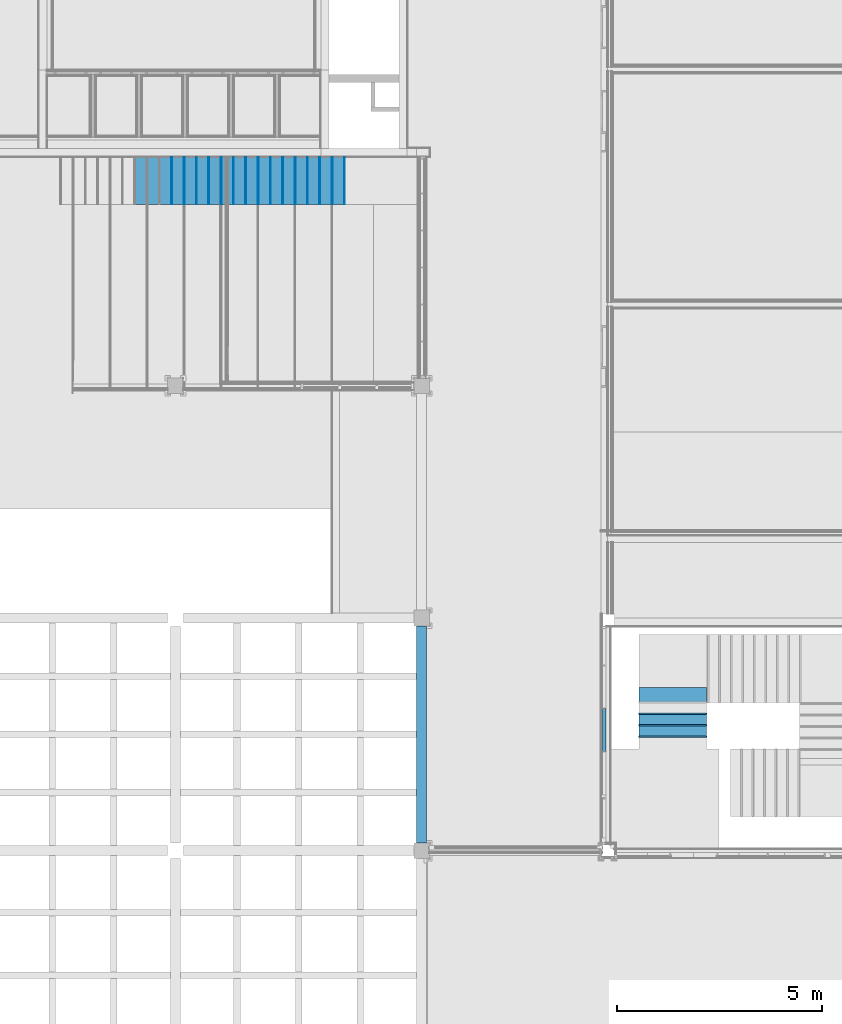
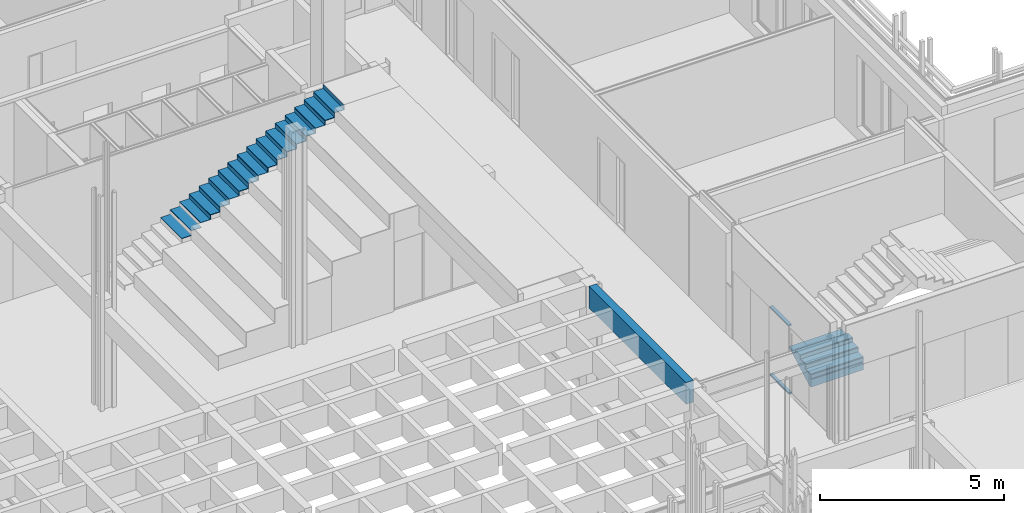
# One storey, part 39 of 139: 40 members, 1 beam, 3 elements without a shape of their own.
"""IFC2X3 building model written with IfcOpenShell, lengths in millimetres."""

from ifc_helpers import new_model, entity, si_unit, converted_unit, derived_unit, money_unit, direction, frame, origin_with_axes, place, context, subcontext, project, spatial, faceted_brep, material, type_object, element, aggregate, save


model = new_model("IFC2X3")

# Units and contexts
model_context = context("Model", 3, precision=0.01, world=origin_with_axes(), true_north=direction((0.0, 1.0)))
body_context = subcontext(model_context, "Body", "Model", "MODEL_VIEW")
ifc_project = project(units=[si_unit("LENGTHUNIT", "METRE", prefix="MILLI"), si_unit("AREAUNIT", "SQUARE_METRE"), si_unit("VOLUMEUNIT", "CUBIC_METRE"), converted_unit("PLANEANGLEUNIT", "DEGREE", entity("IfcPlaneAngleMeasure", 0.0174532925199), si_unit("PLANEANGLEUNIT", "RADIAN"), dimensions=[0, 0, 0, 0, 0, 0, 0]), money_unit("EUR"), converted_unit("TIMEUNIT", "Year", entity("IfcTimeMeasure", 31556926.0), si_unit("TIMEUNIT", "SECOND"), dimensions=[0, 0, 1, 0, 0, 0, 0]), si_unit("MASSUNIT", "GRAM", prefix="KILO"), si_unit("THERMODYNAMICTEMPERATUREUNIT", "DEGREE_CELSIUS"), si_unit("LUMINOUSINTENSITYUNIT", "LUMEN"), si_unit("ENERGYUNIT", "JOULE", prefix="MEGA"), derived_unit("THERMALCONDUCTANCEUNIT", [(si_unit("POWERUNIT", "WATT"), 1), (si_unit("LENGTHUNIT", "METRE"), -1), (si_unit("THERMODYNAMICTEMPERATUREUNIT", "KELVIN"), -1)]), derived_unit("SPECIFICHEATCAPACITYUNIT", [(si_unit("ENERGYUNIT", "JOULE"), 1), (si_unit("MASSUNIT", "GRAM", prefix="KILO"), -1), (si_unit("THERMODYNAMICTEMPERATUREUNIT", "KELVIN"), -1)]), derived_unit("MASSDENSITYUNIT", [(si_unit("MASSUNIT", "GRAM", prefix="KILO"), 1), (si_unit("VOLUMEUNIT", "CUBIC_METRE"), -1)])], contexts=[model_context])

# Site, building, storey
site_placement = place(None, origin_with_axes())
site = spatial("IfcSite", under=ifc_project, at=site_placement, Name="Kolde pst 67a", CompositionType="ELEMENT")
building_placement = place(site_placement, origin_with_axes())
building = spatial("IfcBuilding", under=site, at=building_placement, Name="Riigigümnaasium", CompositionType="ELEMENT")
storey_placement = place(building_placement, frame((0.0, 0.0, 4600.0), z_axis=(0.0, 0.0, 1.0), x_axis=(1.0, 0.0, 0.0)))
storey = spatial("IfcBuildingStorey", under=building, at=storey_placement, Name="2. korrus", CompositionType="ELEMENT", Elevation=4600.0)

# Stair, members
stair_1_placement = place(storey_placement, frame((55074.9941194, 31162.4614213, 0.0), z_axis=(0.0, 0.0, 1.0), x_axis=(1.0, 0.0, 0.0)))
stair_1 = element("IfcStair", 1, at=stair_1_placement, inside=storey, Name="TREPP", ShapeType="NOTDEFINED")
ifc_material_1 = material(Name="_KANDETARIND - raudbetoon C25/30 vastavalt EK osale")
member_type_1 = type_object("IfcMemberType", Name="IfcMember", PredefinedType="USERDEFINED")
member_1_placement = place(stair_1_placement, origin_with_axes())
member_1 = element("IfcMember", 2, at=member_1_placement, type_object=member_type_1, material=ifc_material_1, Name="TT KONSTRUKTSIOON - 015", ObjectType="Stair Structure", context=body_context, shape_type="Brep", body=[
    faceted_brep([(89.8061332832, 1215.0069978, 436.75), (89.8061226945, 1215.0069978, 343.0), (-1558.15879981, 1215.0069978, 343.0), (-1558.15879981, 1215.0069978, 436.75), (89.8065787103, 1222.51927635, 343.0), (89.7916185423, 967.006997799, 436.75), (89.7916185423, 967.006997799, 280.5), (89.7752314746, 687.006997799, 280.5), (89.7752314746, 687.006997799, 124.25), (89.7595041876, 418.296062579, 124.25), (89.7595041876, 418.296062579, -280.0), (89.7622589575, 465.364427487, -280.0), (89.7624330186, 468.338458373, -278.340384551), (89.7678955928, 561.672728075, -226.25652869), (89.7733581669, 655.006997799, -174.172672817), (89.7788267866, 748.340331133, -122.089339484), (89.784289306, 841.673664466, -70.0060061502), (89.7897500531, 935.006997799, -17.9226728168), (89.7952125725, 1028.34033113, 34.1606605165), (89.8006750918, 1121.67366447, 86.2439938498), (89.8061226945, 1215.0069978, 138.327327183), (89.8065787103, 1222.51927635, 142.519446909), (-1558.12262256, 1581.78042446, 343.0), (89.8061226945, 1581.78042446, 343.0), (-1558.15879981, 1215.0069978, 138.327327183), (-1558.16800127, 1121.67366447, 86.2439938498), (-1558.17720272, 1028.34033113, 34.1606605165), (-1558.18640417, 935.006997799, -17.9226728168), (-1558.19560562, 841.673664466, -70.0060061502), (-1558.20480707, 748.340331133, -122.089339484), (-1558.21400852, 655.006997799, -174.172672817), (-1558.22320997, 561.673664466, -226.25600615), (-1558.23241142, 468.340331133, -278.339339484), (-1558.2327048, 465.364427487, -280.0), (-1558.24161287, 375.006997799, -280.0), (-1558.24161287, 375.006997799, -32.0), (-1558.23845687, 407.006997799, -32.0), (-1558.23845687, 407.006997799, 124.25), (-1558.2108526, 687.006997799, 124.25), (-1558.2108526, 687.006997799, 280.5), (-1558.18324827, 967.006997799, 280.5), (-1558.18324827, 967.006997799, 436.75), (89.7717789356, 407.006997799, 124.25), (89.8065729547, 375.006997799, -32.0), (89.8065729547, 375.006997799, -280.0), (89.7717789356, 407.006997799, -32.0)], [[[0, 1, 2, 3]], [[4, 1, 0, 5, 6, 7, 8, 9, 10, 11, 12, 13, 14, 15, 16, 17, 18, 19, 20, 21]], [[22, 2, 1, 4, 23]], [[22, 24, 25, 26, 27, 28, 29, 30, 31, 32, 33, 34, 35, 36, 37, 38, 39, 40, 41, 3, 2]], [[5, 0, 3, 41]], [[5, 41, 40, 6]], [[40, 39, 7, 6]], [[7, 39, 38, 8]], [[37, 42, 9, 8, 38]], [[43, 44, 10, 9, 42, 45]], [[33, 11, 10, 44, 34]], [[12, 11, 33, 32]], [[32, 31, 13, 12]], [[31, 30, 14, 13]], [[30, 29, 15, 14]], [[29, 28, 16, 15]], [[28, 27, 17, 16]], [[27, 26, 18, 17]], [[26, 25, 19, 18]], [[21, 20, 19, 25, 24, 22, 23]], [[4, 21, 23]], [[35, 34, 44, 43]], [[43, 45, 36, 35]], [[42, 37, 36, 45]]]),
])
ifc_material_2 = material(Name="_VIIMISTLUSKIHT - viimistlus vastavalt SA osale")
member_type_2 = type_object("IfcMemberType", Name="IfcMember", PredefinedType="USERDEFINED")
member_2_placement = place(stair_1_placement, frame((-735.193427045, 375.006997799, 124.25), z_axis=(0.0, 0.0, 1.0), x_axis=(1.0, 0.0, 0.0)))
member_2 = element("IfcMember", 3, at=member_2_placement, type_object=member_type_2, material=ifc_material_2, Name="TV TÕUS - 110", ObjectType="Stair Riser", context=body_context, shape_type="Brep", body=[
    faceted_brep([(825.0, 0.0, 0.0), (824.965205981, 32.0, 0.0), (-823.045031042, 32.0, 0.0), (-823.048185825, 0.0, 0.0), (825.0, 0.0, -124.25), (824.965205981, 32.0, -124.25), (-823.045031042, 32.0, -124.25), (-823.048185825, 0.0, -124.25)], [[[0, 1, 2, 3]], [[0, 4, 5, 1]], [[1, 5, 6, 2]], [[3, 2, 6, 7]], [[4, 0, 3, 7]], [[5, 4, 7, 6]]]),
])
member_3_placement = place(stair_1_placement, frame((-735.193427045, 655.006997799, 280.5), z_axis=(0.0, 0.0, 1.0), x_axis=(1.0, 0.0, 0.0)))
member_3 = element("IfcMember", 4, at=member_3_placement, type_object=member_type_2, material=ifc_material_2, Name="TV TÕUS - 111", ObjectType="Stair Riser", context=body_context, shape_type="Brep", body=[
    faceted_brep([(824.966785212, 0.0, 0.0), (824.968658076, 32.0, 0.0), (-823.01742669, 32.0, 0.0), (-823.020581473, 0.0, 0.0), (824.966785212, 0.0, -124.25), (824.968658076, 32.0, -124.25), (-823.01742669, 32.0, -124.25), (-823.020581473, 0.0, -124.25)], [[[0, 1, 2, 3]], [[0, 4, 5, 1]], [[1, 5, 6, 2]], [[3, 2, 6, 7]], [[4, 0, 3, 7]], [[5, 4, 7, 6]]]),
])
member_4_placement = place(stair_1_placement, frame((-735.193427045, 935.006997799, 436.75), z_axis=(0.0, 0.0, 1.0), x_axis=(1.0, 0.0, 0.0)))
member_4 = element("IfcMember", 5, at=member_4_placement, type_object=member_type_2, material=ifc_material_2, Name="TV TÕUS - 112", ObjectType="Stair Riser", context=body_context, shape_type="Brep", body=[
    faceted_brep([(824.98317277, 0.0, 0.0), (824.985045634, 32.0, 0.0), (-822.989822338, 32.0, 0.0), (-822.992977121, 0.0, 0.0), (824.98317277, 0.0, -124.25), (824.985045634, 32.0, -124.25), (-822.989822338, 32.0, -124.25), (-822.992977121, 0.0, -124.25)], [[[0, 1, 2, 3]], [[0, 4, 5, 1]], [[1, 5, 6, 2]], [[3, 2, 6, 7]], [[4, 0, 3, 7]], [[5, 4, 7, 6]]]),
])

stair_2_placement = place(storey_placement, frame((39441.4880734, 44504.9999526, 0.0), z_axis=(0.0, 0.0, 1.0), x_axis=(1.0, 0.0, 0.0)))
stair_2 = element("IfcStair", 6, at=stair_2_placement, inside=storey, Name="Aula astmed", ShapeType="NOTDEFINED")
member_5_placement = place(stair_2_placement, frame((2699.99999944, 575.000002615, 1542.5), z_axis=(0.0, 0.0, 1.0), x_axis=(9.68563972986e-10, -1.0, 0.0)))
member_5 = element("IfcMember", 7, at=member_5_placement, type_object=member_type_2, material=ifc_material_2, Name="TV TÕUS - 172", ObjectType="Stair Riser", context=body_context, shape_type="Brep", body=[
    faceted_brep([(575.0, 0.0, 0.0), (575.0, 20.0, 0.0), (-575.0, 20.0, 0.0), (-575.0, 0.0, 0.0), (575.0, 0.0, -136.25), (575.0, 20.0, -136.25), (-575.0, 20.0, -136.25), (-575.0, 0.0, -136.25)], [[[0, 1, 2, 3]], [[0, 4, 5, 1]], [[1, 5, 6, 2]], [[3, 2, 6, 7]], [[4, 0, 3, 7]], [[5, 4, 7, 6]]]),
])
member_6_placement = place(stair_2_placement, frame((2999.99999944, 575.000002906, 1698.75), z_axis=(0.0, 0.0, 1.0), x_axis=(9.68563972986e-10, -1.0, 0.0)))
member_6 = element("IfcMember", 8, at=member_6_placement, type_object=member_type_2, material=ifc_material_2, Name="TV TÕUS - 173", ObjectType="Stair Riser", context=body_context, shape_type="Brep", body=[
    faceted_brep([(575.0, 0.0, 0.0), (575.0, 20.0, 0.0), (-575.0, 20.0, 0.0), (-575.0, 0.0, 0.0), (575.0, 0.0, -136.25), (575.0, 20.0, -136.25), (-575.0, 20.0, -136.25), (-575.0, 0.0, -136.25)], [[[0, 1, 2, 3]], [[0, 4, 5, 1]], [[1, 5, 6, 2]], [[3, 2, 6, 7]], [[4, 0, 3, 7]], [[5, 4, 7, 6]]]),
])
member_7_placement = place(stair_2_placement, frame((3299.99999944, 575.000003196, 1855.0), z_axis=(0.0, 0.0, 1.0), x_axis=(9.68563972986e-10, -1.0, 0.0)))
member_7 = element("IfcMember", 9, at=member_7_placement, type_object=member_type_2, material=ifc_material_2, Name="TV TÕUS - 174", ObjectType="Stair Riser", context=body_context, shape_type="Brep", body=[
    faceted_brep([(575.0, 0.0, 0.0), (575.0, 20.0, 0.0), (-575.0, 20.0, 0.0), (-575.0, 0.0, 0.0), (575.0, 0.0, -136.25), (575.0, 20.0, -136.25), (-575.0, 20.0, -136.25), (-575.0, 0.0, -136.25)], [[[0, 1, 2, 3]], [[0, 4, 5, 1]], [[1, 5, 6, 2]], [[3, 2, 6, 7]], [[4, 0, 3, 7]], [[5, 4, 7, 6]]]),
])
member_8_placement = place(stair_2_placement, frame((3599.99999944, 575.000003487, 2011.25), z_axis=(0.0, 0.0, 1.0), x_axis=(9.68563972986e-10, -1.0, 0.0)))
member_8 = element("IfcMember", 10, at=member_8_placement, type_object=member_type_2, material=ifc_material_2, Name="TV TÕUS - 175", ObjectType="Stair Riser", context=body_context, shape_type="Brep", body=[
    faceted_brep([(575.0, 0.0, 0.0), (575.0, 20.0, 0.0), (-575.0, 20.0, 0.0), (-575.0, 0.0, 0.0), (575.0, 0.0, -136.25), (575.0, 20.0, -136.25), (-575.0, 20.0, -136.25), (-575.0, 0.0, -136.25)], [[[0, 1, 2, 3]], [[0, 4, 5, 1]], [[1, 5, 6, 2]], [[3, 2, 6, 7]], [[4, 0, 3, 7]], [[5, 4, 7, 6]]]),
])
member_9_placement = place(stair_2_placement, frame((3899.99999944, 575.000003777, 2167.5), z_axis=(0.0, 0.0, 1.0), x_axis=(9.68563972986e-10, -1.0, 0.0)))
member_9 = element("IfcMember", 11, at=member_9_placement, type_object=member_type_2, material=ifc_material_2, Name="TV TÕUS - 176", ObjectType="Stair Riser", context=body_context, shape_type="Brep", body=[
    faceted_brep([(575.0, 0.0, 0.0), (575.0, 20.0, 0.0), (-575.0, 20.0, 0.0), (-575.0, 0.0, 0.0), (575.0, 0.0, -136.25), (575.0, 20.0, -136.25), (-575.0, 20.0, -136.25), (-575.0, 0.0, -136.25)], [[[0, 1, 2, 3]], [[0, 4, 5, 1]], [[1, 5, 6, 2]], [[3, 2, 6, 7]], [[4, 0, 3, 7]], [[5, 4, 7, 6]]]),
])
member_10_placement = place(stair_2_placement, frame((4199.99999944, 575.000004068, 2323.75), z_axis=(0.0, 0.0, 1.0), x_axis=(9.68563972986e-10, -1.0, 0.0)))
member_10 = element("IfcMember", 12, at=member_10_placement, type_object=member_type_2, material=ifc_material_2, Name="TV TÕUS - 177", ObjectType="Stair Riser", context=body_context, shape_type="Brep", body=[
    faceted_brep([(575.0, 0.0, 0.0), (575.0, 20.0, 0.0), (-575.0, 20.0, 0.0), (-575.0, 0.0, 0.0), (575.0, 0.0, -136.25), (575.0, 20.0, -136.25), (-575.0, 20.0, -136.25), (-575.0, 0.0, -136.25)], [[[0, 1, 2, 3]], [[0, 4, 5, 1]], [[1, 5, 6, 2]], [[3, 2, 6, 7]], [[4, 0, 3, 7]], [[5, 4, 7, 6]]]),
])
member_11_placement = place(stair_2_placement, frame((4499.99999944, 575.000004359, 2480.0), z_axis=(0.0, 0.0, 1.0), x_axis=(9.68563972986e-10, -1.0, 0.0)))
member_11 = element("IfcMember", 13, at=member_11_placement, type_object=member_type_2, material=ifc_material_2, Name="TV TÕUS - 178", ObjectType="Stair Riser", context=body_context, shape_type="Brep", body=[
    faceted_brep([(575.0, 0.0, 0.0), (575.0, 20.0, 0.0), (-575.0, 20.0, 0.0), (-575.0, 0.0, 0.0), (575.0, 0.0, -136.25), (575.0, 20.0, -136.25), (-575.0, 20.0, -136.25), (-575.0, 0.0, -136.25)], [[[0, 1, 2, 3]], [[0, 4, 5, 1]], [[1, 5, 6, 2]], [[3, 2, 6, 7]], [[4, 0, 3, 7]], [[5, 4, 7, 6]]]),
])
member_12_placement = place(stair_2_placement, frame((4799.99999944, 575.000004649, 2636.25), z_axis=(0.0, 0.0, 1.0), x_axis=(9.68563972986e-10, -1.0, 0.0)))
member_12 = element("IfcMember", 14, at=member_12_placement, type_object=member_type_2, material=ifc_material_2, Name="TV TÕUS - 179", ObjectType="Stair Riser", context=body_context, shape_type="Brep", body=[
    faceted_brep([(575.0, 0.0, 0.0), (575.0, 20.0, 0.0), (-575.0, 20.0, 0.0), (-575.0, 0.0, 0.0), (575.0, 0.0, -136.25), (575.0, 20.0, -136.25), (-575.0, 20.0, -136.25), (-575.0, 0.0, -136.25)], [[[0, 1, 2, 3]], [[0, 4, 5, 1]], [[1, 5, 6, 2]], [[3, 2, 6, 7]], [[4, 0, 3, 7]], [[5, 4, 7, 6]]]),
])
member_13_placement = place(stair_2_placement, frame((5099.99999944, 575.00000494, 2792.5), z_axis=(0.0, 0.0, 1.0), x_axis=(9.68563972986e-10, -1.0, 0.0)))
member_13 = element("IfcMember", 15, at=member_13_placement, type_object=member_type_2, material=ifc_material_2, Name="TV TÕUS - 180", ObjectType="Stair Riser", context=body_context, shape_type="Brep", body=[
    faceted_brep([(575.0, 0.0, 0.0), (575.0, 20.0, 0.0), (-575.0, 20.0, 0.0), (-575.0, 0.0, 0.0), (575.0, 0.0, -136.25), (575.0, 20.0, -136.25), (-575.0, 20.0, -136.25), (-575.0, 0.0, -136.25)], [[[0, 1, 2, 3]], [[0, 4, 5, 1]], [[1, 5, 6, 2]], [[3, 2, 6, 7]], [[4, 0, 3, 7]], [[5, 4, 7, 6]]]),
])
member_14_placement = place(stair_2_placement, frame((5399.99999944, 575.00000523, 2948.75), z_axis=(0.0, 0.0, 1.0), x_axis=(9.68564745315e-10, -1.0, 0.0)))
member_14 = element("IfcMember", 16, at=member_14_placement, type_object=member_type_2, material=ifc_material_2, Name="TV TÕUS - 181", ObjectType="Stair Riser", context=body_context, shape_type="Brep", body=[
    faceted_brep([(575.0, 0.0, 0.0), (575.0, 20.0, 0.0), (-575.0, 20.0, 0.0), (-575.0, 0.0, 0.0), (575.0, 0.0, -136.25), (575.0, 20.0, -136.25), (-575.0, 20.0, -136.25), (-575.0, 0.0, -136.25)], [[[0, 1, 2, 3]], [[0, 4, 5, 1]], [[1, 5, 6, 2]], [[3, 2, 6, 7]], [[4, 0, 3, 7]], [[5, 4, 7, 6]]]),
])
member_15_placement = place(stair_2_placement, frame((5699.99999944, 575.000005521, 3105.0), z_axis=(0.0, 0.0, 1.0), x_axis=(9.68563972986e-10, -1.0, 0.0)))
member_15 = element("IfcMember", 17, at=member_15_placement, type_object=member_type_2, material=ifc_material_2, Name="TV TÕUS - 182", ObjectType="Stair Riser", context=body_context, shape_type="Brep", body=[
    faceted_brep([(575.0, 0.0, 0.0), (575.0, 20.0, 0.0), (-575.0, 20.0, 0.0), (-575.0, 0.0, 0.0), (575.0, 0.0, -136.25), (575.0, 20.0, -136.25), (-575.0, 20.0, -136.25), (-575.0, 0.0, -136.25)], [[[0, 1, 2, 3]], [[0, 4, 5, 1]], [[1, 5, 6, 2]], [[3, 2, 6, 7]], [[4, 0, 3, 7]], [[5, 4, 7, 6]]]),
])
member_16_placement = place(stair_2_placement, frame((5999.99999944, 575.000005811, 3261.25), z_axis=(0.0, 0.0, 1.0), x_axis=(9.68563972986e-10, -1.0, 0.0)))
member_16 = element("IfcMember", 18, at=member_16_placement, type_object=member_type_2, material=ifc_material_2, Name="TV TÕUS - 183", ObjectType="Stair Riser", context=body_context, shape_type="Brep", body=[
    faceted_brep([(575.0, 0.0, 0.0), (575.0, 20.0, 0.0), (-575.0, 20.0, 0.0), (-575.0, 0.0, 0.0), (575.0, 0.0, -136.25), (575.0, 20.0, -136.25), (-575.0, 20.0, -136.25), (-575.0, 0.0, -136.25)], [[[0, 1, 2, 3]], [[0, 4, 5, 1]], [[1, 5, 6, 2]], [[3, 2, 6, 7]], [[4, 0, 3, 7]], [[5, 4, 7, 6]]]),
])
member_17_placement = place(stair_2_placement, frame((6299.99999944, 575.000006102, 3417.5), z_axis=(0.0, 0.0, 1.0), x_axis=(9.68563972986e-10, -1.0, 0.0)))
member_17 = element("IfcMember", 19, at=member_17_placement, type_object=member_type_2, material=ifc_material_2, Name="TV TÕUS - 184", ObjectType="Stair Riser", context=body_context, shape_type="Brep", body=[
    faceted_brep([(575.0, 0.0, 0.0), (575.0, 20.0, 0.0), (-575.0, 20.0, 0.0), (-575.0, 0.0, 0.0), (575.0, 0.0, -136.25), (575.0, 20.0, -136.25), (-575.0, 20.0, -136.25), (-575.0, 0.0, -136.25)], [[[0, 1, 2, 3]], [[0, 4, 5, 1]], [[1, 5, 6, 2]], [[3, 2, 6, 7]], [[4, 0, 3, 7]], [[5, 4, 7, 6]]]),
])
member_18_placement = place(stair_2_placement, frame((6599.99999944, 575.000006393, 3573.75), z_axis=(0.0, 0.0, 1.0), x_axis=(9.68563972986e-10, -1.0, 0.0)))
member_18 = element("IfcMember", 20, at=member_18_placement, type_object=member_type_2, material=ifc_material_2, Name="TV TÕUS - 185", ObjectType="Stair Riser", context=body_context, shape_type="Brep", body=[
    faceted_brep([(575.0, 0.0, 0.0), (575.0, 20.0, 0.0), (-575.0, 20.0, 0.0), (-575.0, 0.0, 0.0), (575.0, 0.0, -136.25), (575.0, 20.0, -136.25), (-575.0, 20.0, -136.25), (-575.0, 0.0, -136.25)], [[[0, 1, 2, 3]], [[0, 4, 5, 1]], [[1, 5, 6, 2]], [[3, 2, 6, 7]], [[4, 0, 3, 7]], [[5, 4, 7, 6]]]),
])
member_19_placement = place(stair_2_placement, frame((6899.99999944, 575.000006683, 3730.0), z_axis=(0.0, 0.0, 1.0), x_axis=(9.68563972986e-10, -1.0, 0.0)))
member_19 = element("IfcMember", 21, at=member_19_placement, type_object=member_type_2, material=ifc_material_2, Name="TV TÕUS - 186", ObjectType="Stair Riser", context=body_context, shape_type="Brep", body=[
    faceted_brep([(575.0, 0.0, 0.0), (575.0, 20.0, 0.0), (-575.0, 20.0, 0.0), (-575.0, 0.0, 0.0), (575.0, 0.0, -136.25), (575.0, 20.0, -136.25), (-575.0, 20.0, -136.25), (-575.0, 0.0, -136.25)], [[[0, 1, 2, 3]], [[0, 4, 5, 1]], [[1, 5, 6, 2]], [[3, 2, 6, 7]], [[4, 0, 3, 7]], [[5, 4, 7, 6]]]),
])

# Member
member_type_3 = type_object("IfcMemberType", Name="IfcMember", PredefinedType="USERDEFINED")
member_20_placement = place(stair_1_placement, frame((-735.193427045, 375.006997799, 156.25), z_axis=(0.0, 0.0, 1.0), x_axis=(1.0, 0.0, 0.0)))
member_20 = element("IfcMember", 22, at=member_20_placement, type_object=member_type_3, material=ifc_material_2, Name="TV ASTE - 111", ObjectType="Stair Tread", context=body_context, shape_type="Brep", body=[
    faceted_brep([(-823.048185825, 0.0, -32.0), (825.0, 0.0, -32.0), (825.0, 0.0, 0.0), (-823.048185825, 0.0, 0.0), (-823.017426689, 312.000009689, -32.0), (824.968658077, 312.000009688, -32.0), (824.952931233, 43.2890647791, -32.0), (824.952931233, 43.2890647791, 0.0), (824.968658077, 312.000009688, 0.0), (-823.017426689, 312.000009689, 0.0)], [[[0, 1, 2, 3]], [[0, 4, 5, 6, 1]], [[1, 6, 7, 2]], [[3, 2, 7, 8, 9]], [[4, 0, 3, 9]], [[5, 4, 9, 8]], [[6, 5, 8, 7]]]),
])

member_21_placement = place(stair_1_placement, frame((-735.193427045, 655.006997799, 312.5), z_axis=(0.0, 0.0, 1.0), x_axis=(1.0, 0.0, 0.0)))
member_21 = element("IfcMember", 23, at=member_21_placement, type_object=member_type_3, material=ifc_material_2, Name="TV ASTE - 112", ObjectType="Stair Tread", context=body_context, shape_type="Brep", body=[
    faceted_brep([(-823.020581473, 0.0, -32.0), (824.966785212, 0.0, -32.0), (824.966785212, 0.0, 0.0), (-823.020581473, 0.0, 0.0), (-822.989822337, 312.000008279, -32.0), (824.985045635, 312.000008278, -32.0), (824.985045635, 312.000008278, 0.0), (-822.989822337, 312.000008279, 0.0)], [[[0, 1, 2, 3]], [[0, 4, 5, 1]], [[1, 5, 6, 2]], [[3, 2, 6, 7]], [[4, 0, 3, 7]], [[5, 4, 7, 6]]]),
])

aggregate(stair_1, [member_1, member_2, member_3, member_4, member_20, member_21])

member_22_placement = place(stair_2_placement, frame((1799.99999944, 575.000001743, 1093.75), z_axis=(0.0, 0.0, 1.0), x_axis=(9.68563972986e-10, -1.0, 0.0)))
member_22 = element("IfcMember", 24, at=member_22_placement, type_object=member_type_3, material=ifc_material_2, Name="TV ASTE - 169", ObjectType="Stair Tread", context=body_context, shape_type="Brep", body=[
    faceted_brep([(-575.0, 0.0, -20.0), (575.0, 0.0, -20.0), (575.0, 0.0, 0.0), (-575.0, 0.0, 0.0), (-575.0, 320.00000112, -20.0), (575.0, 320.000000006, -20.0), (575.0, 320.000000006, 0.0), (-575.0, 320.00000112, 0.0)], [[[0, 1, 2, 3]], [[0, 4, 5, 1]], [[1, 5, 6, 2]], [[3, 2, 6, 7]], [[4, 0, 3, 7]], [[5, 4, 7, 6]]]),
])

member_23_placement = place(stair_2_placement, frame((2099.99999944, 575.000002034, 1250.0), z_axis=(0.0, 0.0, 1.0), x_axis=(9.68563972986e-10, -1.0, 0.0)))
member_23 = element("IfcMember", 25, at=member_23_placement, type_object=member_type_3, material=ifc_material_2, Name="TV ASTE - 170", ObjectType="Stair Tread", context=body_context, shape_type="Brep", body=[
    faceted_brep([(-575.0, 0.0, -20.0), (575.0, 0.0, -20.0), (575.0, 0.0, 0.0), (-575.0, 0.0, 0.0), (-575.0, 320.00000112, -20.0), (575.0, 320.000000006, -20.0), (575.0, 320.000000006, 0.0), (-575.0, 320.00000112, 0.0)], [[[0, 1, 2, 3]], [[0, 4, 5, 1]], [[1, 5, 6, 2]], [[3, 2, 6, 7]], [[4, 0, 3, 7]], [[5, 4, 7, 6]]]),
])

member_24_placement = place(stair_2_placement, frame((2399.99999944, 575.000002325, 1406.25), z_axis=(0.0, 0.0, 1.0), x_axis=(9.68563972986e-10, -1.0, 0.0)))
member_24 = element("IfcMember", 26, at=member_24_placement, type_object=member_type_3, material=ifc_material_2, Name="TV ASTE - 171", ObjectType="Stair Tread", context=body_context, shape_type="Brep", body=[
    faceted_brep([(-575.0, 0.0, -20.0), (575.0, 0.0, -20.0), (575.0, 0.0, 0.0), (-575.0, 0.0, 0.0), (-575.0, 320.00000112, -20.0), (575.0, 320.000000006, -20.0), (575.0, 320.000000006, 0.0), (-575.0, 320.00000112, 0.0)], [[[0, 1, 2, 3]], [[0, 4, 5, 1]], [[1, 5, 6, 2]], [[3, 2, 6, 7]], [[4, 0, 3, 7]], [[5, 4, 7, 6]]]),
])

member_25_placement = place(stair_2_placement, frame((2699.99999944, 575.000002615, 1562.5), z_axis=(0.0, 0.0, 1.0), x_axis=(9.68563972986e-10, -1.0, 0.0)))
member_25 = element("IfcMember", 27, at=member_25_placement, type_object=member_type_3, material=ifc_material_2, Name="TV ASTE - 172", ObjectType="Stair Tread", context=body_context, shape_type="Brep", body=[
    faceted_brep([(-575.0, 0.0, -20.0), (575.0, 0.0, -20.0), (575.0, 0.0, 0.0), (-575.0, 0.0, 0.0), (-575.0, 320.00000112, -20.0), (575.0, 320.000000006, -20.0), (575.0, 320.000000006, 0.0), (-575.0, 320.00000112, 0.0)], [[[0, 1, 2, 3]], [[0, 4, 5, 1]], [[1, 5, 6, 2]], [[3, 2, 6, 7]], [[4, 0, 3, 7]], [[5, 4, 7, 6]]]),
])

member_26_placement = place(stair_2_placement, frame((2999.99999944, 575.000002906, 1718.75), z_axis=(0.0, 0.0, 1.0), x_axis=(9.68563972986e-10, -1.0, 0.0)))
member_26 = element("IfcMember", 28, at=member_26_placement, type_object=member_type_3, material=ifc_material_2, Name="TV ASTE - 173", ObjectType="Stair Tread", context=body_context, shape_type="Brep", body=[
    faceted_brep([(-575.0, 0.0, -20.0), (575.0, 0.0, -20.0), (575.0, 0.0, 0.0), (-575.0, 0.0, 0.0), (-575.0, 320.00000112, -20.0), (575.0, 320.000000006, -20.0), (575.0, 320.000000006, 0.0), (-575.0, 320.00000112, 0.0)], [[[0, 1, 2, 3]], [[0, 4, 5, 1]], [[1, 5, 6, 2]], [[3, 2, 6, 7]], [[4, 0, 3, 7]], [[5, 4, 7, 6]]]),
])

member_27_placement = place(stair_2_placement, frame((3299.99999944, 575.000003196, 1875.0), z_axis=(0.0, 0.0, 1.0), x_axis=(9.68563972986e-10, -1.0, 0.0)))
member_27 = element("IfcMember", 29, at=member_27_placement, type_object=member_type_3, material=ifc_material_2, Name="TV ASTE - 174", ObjectType="Stair Tread", context=body_context, shape_type="Brep", body=[
    faceted_brep([(-575.0, 0.0, -20.0), (575.0, 0.0, -20.0), (575.0, 0.0, 0.0), (-575.0, 0.0, 0.0), (-575.0, 320.00000112, -20.0), (575.0, 320.000000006, -20.0), (575.0, 320.000000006, 0.0), (-575.0, 320.00000112, 0.0)], [[[0, 1, 2, 3]], [[0, 4, 5, 1]], [[1, 5, 6, 2]], [[3, 2, 6, 7]], [[4, 0, 3, 7]], [[5, 4, 7, 6]]]),
])

member_28_placement = place(stair_2_placement, frame((3599.99999944, 575.000003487, 2031.25), z_axis=(0.0, 0.0, 1.0), x_axis=(9.68563972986e-10, -1.0, 0.0)))
member_28 = element("IfcMember", 30, at=member_28_placement, type_object=member_type_3, material=ifc_material_2, Name="TV ASTE - 175", ObjectType="Stair Tread", context=body_context, shape_type="Brep", body=[
    faceted_brep([(-575.0, 0.0, -20.0), (575.0, 0.0, -20.0), (575.0, 0.0, 0.0), (-575.0, 0.0, 0.0), (-575.0, 320.00000112, -20.0), (575.0, 320.000000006, -20.0), (575.0, 320.000000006, 0.0), (-575.0, 320.00000112, 0.0)], [[[0, 1, 2, 3]], [[0, 4, 5, 1]], [[1, 5, 6, 2]], [[3, 2, 6, 7]], [[4, 0, 3, 7]], [[5, 4, 7, 6]]]),
])

member_29_placement = place(stair_2_placement, frame((3899.99999944, 575.000003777, 2187.5), z_axis=(0.0, 0.0, 1.0), x_axis=(9.68563972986e-10, -1.0, 0.0)))
member_29 = element("IfcMember", 31, at=member_29_placement, type_object=member_type_3, material=ifc_material_2, Name="TV ASTE - 176", ObjectType="Stair Tread", context=body_context, shape_type="Brep", body=[
    faceted_brep([(-575.0, 0.0, -20.0), (575.0, 0.0, -20.0), (575.0, 0.0, 0.0), (-575.0, 0.0, 0.0), (-575.0, 320.00000112, -20.0), (575.0, 320.000000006, -20.0), (575.0, 320.000000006, 0.0), (-575.0, 320.00000112, 0.0)], [[[0, 1, 2, 3]], [[0, 4, 5, 1]], [[1, 5, 6, 2]], [[3, 2, 6, 7]], [[4, 0, 3, 7]], [[5, 4, 7, 6]]]),
])

member_30_placement = place(stair_2_placement, frame((4199.99999944, 575.000004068, 2343.75), z_axis=(0.0, 0.0, 1.0), x_axis=(9.68563972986e-10, -1.0, 0.0)))
member_30 = element("IfcMember", 32, at=member_30_placement, type_object=member_type_3, material=ifc_material_2, Name="TV ASTE - 177", ObjectType="Stair Tread", context=body_context, shape_type="Brep", body=[
    faceted_brep([(-575.0, 0.0, -20.0), (575.0, 0.0, -20.0), (575.0, 0.0, 0.0), (-575.0, 0.0, 0.0), (-575.0, 320.00000112, -20.0), (575.0, 320.000000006, -20.0), (575.0, 320.000000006, 0.0), (-575.0, 320.00000112, 0.0)], [[[0, 1, 2, 3]], [[0, 4, 5, 1]], [[1, 5, 6, 2]], [[3, 2, 6, 7]], [[4, 0, 3, 7]], [[5, 4, 7, 6]]]),
])

member_31_placement = place(stair_2_placement, frame((4499.99999944, 575.000004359, 2500.0), z_axis=(0.0, 0.0, 1.0), x_axis=(9.68563972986e-10, -1.0, 0.0)))
member_31 = element("IfcMember", 33, at=member_31_placement, type_object=member_type_3, material=ifc_material_2, Name="TV ASTE - 178", ObjectType="Stair Tread", context=body_context, shape_type="Brep", body=[
    faceted_brep([(-575.0, 0.0, -20.0), (575.0, 0.0, -20.0), (575.0, 0.0, 0.0), (-575.0, 0.0, 0.0), (-575.0, 320.00000112, -20.0), (575.0, 320.000000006, -20.0), (575.0, 320.000000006, 0.0), (-575.0, 320.00000112, 0.0)], [[[0, 1, 2, 3]], [[0, 4, 5, 1]], [[1, 5, 6, 2]], [[3, 2, 6, 7]], [[4, 0, 3, 7]], [[5, 4, 7, 6]]]),
])

member_32_placement = place(stair_2_placement, frame((4799.99999944, 575.000004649, 2656.25), z_axis=(0.0, 0.0, 1.0), x_axis=(9.68563972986e-10, -1.0, 0.0)))
member_32 = element("IfcMember", 34, at=member_32_placement, type_object=member_type_3, material=ifc_material_2, Name="TV ASTE - 179", ObjectType="Stair Tread", context=body_context, shape_type="Brep", body=[
    faceted_brep([(-575.0, 0.0, -20.0), (575.0, 0.0, -20.0), (575.0, 0.0, 0.0), (-575.0, 0.0, 0.0), (-575.0, 320.00000112, -20.0), (575.0, 320.000000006, -20.0), (575.0, 320.000000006, 0.0), (-575.0, 320.00000112, 0.0)], [[[0, 1, 2, 3]], [[0, 4, 5, 1]], [[1, 5, 6, 2]], [[3, 2, 6, 7]], [[4, 0, 3, 7]], [[5, 4, 7, 6]]]),
])

member_33_placement = place(stair_2_placement, frame((5099.99999944, 575.00000494, 2812.5), z_axis=(0.0, 0.0, 1.0), x_axis=(9.68563972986e-10, -1.0, 0.0)))
member_33 = element("IfcMember", 35, at=member_33_placement, type_object=member_type_3, material=ifc_material_2, Name="TV ASTE - 180", ObjectType="Stair Tread", context=body_context, shape_type="Brep", body=[
    faceted_brep([(-575.0, 0.0, -20.0), (575.0, 0.0, -20.0), (575.0, 0.0, 0.0), (-575.0, 0.0, 0.0), (-575.0, 320.00000112, -20.0), (575.0, 320.000000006, -20.0), (575.0, 320.000000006, 0.0), (-575.0, 320.00000112, 0.0)], [[[0, 1, 2, 3]], [[0, 4, 5, 1]], [[1, 5, 6, 2]], [[3, 2, 6, 7]], [[4, 0, 3, 7]], [[5, 4, 7, 6]]]),
])

member_34_placement = place(stair_2_placement, frame((5399.99999944, 575.00000523, 2968.75), z_axis=(0.0, 0.0, 1.0), x_axis=(9.68564745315e-10, -1.0, 0.0)))
member_34 = element("IfcMember", 36, at=member_34_placement, type_object=member_type_3, material=ifc_material_2, Name="TV ASTE - 181", ObjectType="Stair Tread", context=body_context, shape_type="Brep", body=[
    faceted_brep([(-575.0, 0.0, -20.0), (575.0, 0.0, -20.0), (575.0, 0.0, 0.0), (-575.0, 0.0, 0.0), (-575.0, 320.00000112, -20.0), (575.0, 320.000000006, -20.0), (575.0, 320.000000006, 0.0), (-575.0, 320.00000112, 0.0)], [[[0, 1, 2, 3]], [[0, 4, 5, 1]], [[1, 5, 6, 2]], [[3, 2, 6, 7]], [[4, 0, 3, 7]], [[5, 4, 7, 6]]]),
])

member_35_placement = place(stair_2_placement, frame((5699.99999944, 575.000005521, 3125.0), z_axis=(0.0, 0.0, 1.0), x_axis=(9.68563972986e-10, -1.0, 0.0)))
member_35 = element("IfcMember", 37, at=member_35_placement, type_object=member_type_3, material=ifc_material_2, Name="TV ASTE - 182", ObjectType="Stair Tread", context=body_context, shape_type="Brep", body=[
    faceted_brep([(-575.0, 0.0, -20.0), (575.0, 0.0, -20.0), (575.0, 0.0, 0.0), (-575.0, 0.0, 0.0), (-575.0, 320.00000112, -20.0), (575.0, 320.000000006, -20.0), (575.0, 320.000000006, 0.0), (-575.0, 320.00000112, 0.0)], [[[0, 1, 2, 3]], [[0, 4, 5, 1]], [[1, 5, 6, 2]], [[3, 2, 6, 7]], [[4, 0, 3, 7]], [[5, 4, 7, 6]]]),
])

member_36_placement = place(stair_2_placement, frame((5999.99999944, 575.000005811, 3281.25), z_axis=(0.0, 0.0, 1.0), x_axis=(9.68563972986e-10, -1.0, 0.0)))
member_36 = element("IfcMember", 38, at=member_36_placement, type_object=member_type_3, material=ifc_material_2, Name="TV ASTE - 183", ObjectType="Stair Tread", context=body_context, shape_type="Brep", body=[
    faceted_brep([(-575.0, 0.0, -20.0), (575.0, 0.0, -20.0), (575.0, 0.0, 0.0), (-575.0, 0.0, 0.0), (-575.0, 320.00000112, -20.0), (575.0, 320.000000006, -20.0), (575.0, 320.000000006, 0.0), (-575.0, 320.00000112, 0.0)], [[[0, 1, 2, 3]], [[0, 4, 5, 1]], [[1, 5, 6, 2]], [[3, 2, 6, 7]], [[4, 0, 3, 7]], [[5, 4, 7, 6]]]),
])

member_37_placement = place(stair_2_placement, frame((6299.99999944, 575.000006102, 3437.5), z_axis=(0.0, 0.0, 1.0), x_axis=(9.68563972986e-10, -1.0, 0.0)))
member_37 = element("IfcMember", 39, at=member_37_placement, type_object=member_type_3, material=ifc_material_2, Name="TV ASTE - 184", ObjectType="Stair Tread", context=body_context, shape_type="Brep", body=[
    faceted_brep([(-575.0, 0.0, -20.0), (575.0, 0.0, -20.0), (575.0, 0.0, 0.0), (-575.0, 0.0, 0.0), (-575.0, 320.00000112, -20.0), (575.0, 320.000000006, -20.0), (575.0, 320.000000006, 0.0), (-575.0, 320.00000112, 0.0)], [[[0, 1, 2, 3]], [[0, 4, 5, 1]], [[1, 5, 6, 2]], [[3, 2, 6, 7]], [[4, 0, 3, 7]], [[5, 4, 7, 6]]]),
])

member_38_placement = place(stair_2_placement, frame((6599.99999944, 575.000006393, 3593.75), z_axis=(0.0, 0.0, 1.0), x_axis=(9.68563972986e-10, -1.0, 0.0)))
member_38 = element("IfcMember", 40, at=member_38_placement, type_object=member_type_3, material=ifc_material_2, Name="TV ASTE - 185", ObjectType="Stair Tread", context=body_context, shape_type="Brep", body=[
    faceted_brep([(-575.0, 0.0, -20.0), (575.0, 0.0, -20.0), (575.0, 0.0, 0.0), (-575.0, 0.0, 0.0), (-575.0, 320.00000112, -20.0), (575.0, 320.000000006, -20.0), (575.0, 320.000000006, 0.0), (-575.0, 320.00000112, 0.0)], [[[0, 1, 2, 3]], [[0, 4, 5, 1]], [[1, 5, 6, 2]], [[3, 2, 6, 7]], [[4, 0, 3, 7]], [[5, 4, 7, 6]]]),
])

aggregate(stair_2, [member_5, member_6, member_7, member_8, member_9, member_10, member_11, member_12, member_13, member_14, member_15, member_16, member_17, member_18, member_19, member_22, member_23, member_24, member_25, member_26, member_27, member_28, member_29, member_30, member_31, member_32, member_33, member_34, member_35, member_36, member_37, member_38])

# Curtain wall, members
curtain_wall_type = type_object("IfcCurtainWallType", Name="Curtain Wall Type", PredefinedType="NOTDEFINED")
curtain_wall_placement = place(storey_placement, frame((52619.9941222, 32759.7635899, -0.000120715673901), z_axis=(0.0, 0.0, 1.0), x_axis=(1.0, 0.0, 0.0)))
curtain_wall = element("IfcCurtainWall", 41, at=curtain_wall_placement, inside=storey, type_object=curtain_wall_type, Name="KLAASSEIN")
ifc_material_3 = material(Name="_GENEERILINE MATERJAL")
member_type_4 = type_object("IfcMemberType", Name="Boundary Frame 50 x 100", PredefinedType="MEMBER")
member_39_placement = place(curtain_wall_placement, frame((0.0, -525.0, 0.0), z_axis=(0.0, -1.0, 0.0), x_axis=(0.0, 0.0, 1.0)))
member_39 = element("IfcMember", 42, at=member_39_placement, type_object=member_type_4, material=ifc_material_3, Name="RF RAAM SERV-605", ObjectType="MEMBER", context=body_context, shape_type="Brep", body=[
    faceted_brep([(50.0, -10.0, 0.0), (50.0, -10.0, 1038.00000076), (50.0, -100.0, 1038.00000076), (50.0, -100.0, 0.0), (25.0, -10.0, 1038.00000076), (25.0, -10.0, 0.0), (25.0, 0.0, 1038.00000076), (0.0, 0.0, 1038.00000076), (0.0, -100.0, 1038.00000076), (0.0, -100.0, 0.0), (0.0, 0.0, 0.0), (25.0, 0.0, 0.0)], [[[0, 1, 2, 3]], [[4, 1, 0, 5]], [[4, 6, 7, 8, 2, 1]], [[3, 2, 8, 9]], [[5, 0, 3, 9, 10, 11]], [[11, 6, 4, 5]], [[6, 11, 10, 7]], [[9, 8, 7, 10]]]),
])
member_40_placement = place(curtain_wall_placement, frame((0.0, -525.0, 2300.00012072), z_axis=(0.0, -1.0, 0.0), x_axis=(0.0, 0.0, 1.0)))
member_40 = element("IfcMember", 43, at=member_40_placement, type_object=member_type_4, material=ifc_material_3, Name="RF RAAM SERV-606", ObjectType="MEMBER", context=body_context, shape_type="Brep", body=[
    faceted_brep([(-50.0, -10.0, 0.0), (-50.0, -100.0, 0.0), (-50.0, -100.0, 1028.00000076), (-50.0, -10.0, 1028.00000076), (-25.0, -10.0, 0.0), (-25.0, 0.0, 0.0), (0.0, 0.0, 0.0), (0.0, -100.0, 0.0), (0.0, -100.0, 1028.00000076), (-25.0, -10.0, 1028.00000076), (0.0, 0.0, 1028.00000076), (-25.0, 0.0, 1028.00000076)], [[[0, 1, 2, 3]], [[4, 5, 6, 7, 1, 0]], [[1, 7, 8, 2]], [[9, 3, 2, 8, 10, 11]], [[9, 4, 0, 3]], [[5, 4, 9, 11]], [[11, 10, 6, 5]], [[7, 6, 10, 8]]]),
])
aggregate(curtain_wall, [member_39, member_40])

# Beam
ifc_material_4 = material(Name="_KANDETARIND - liimpuit vastavalt EK osale")
beam_type = type_object("IfcBeamType", Name="_KANDETARIND - liimpuit vastavalt EK osale 240 x 720", PredefinedType="BEAM")
beam_placement = place(storey_placement, frame((48229.9084948, 34249.9999729, 2960.0), z_axis=(0.0, 0.0, 1.0), x_axis=(-0.999999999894, -1.45768683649e-05, 0.0)))
element("IfcBeam", 44, at=beam_placement, inside=storey, type_object=beam_type, material=ifc_material_4, Name="Tala", ObjectType="BEAM", context=body_context, shape_type="Brep", body=[
    faceted_brep([(120.0, 0.0, 360.0), (120.0, 5280.0002737, 360.0), (-120.0, 5280.0002737, 360.0), (-120.0, 0.0, 360.0), (120.0, 0.0, -360.0), (120.0, 5280.0002737, -360.0), (-120.0, 5280.0002737, -360.0), (-120.0, 0.0, -360.0)], [[[0, 1, 2, 3]], [[4, 5, 1, 0]], [[2, 1, 5, 6]], [[3, 2, 6, 7]], [[4, 0, 3, 7]], [[7, 6, 5, 4]]]),
])

save(model, "model.ifc")
